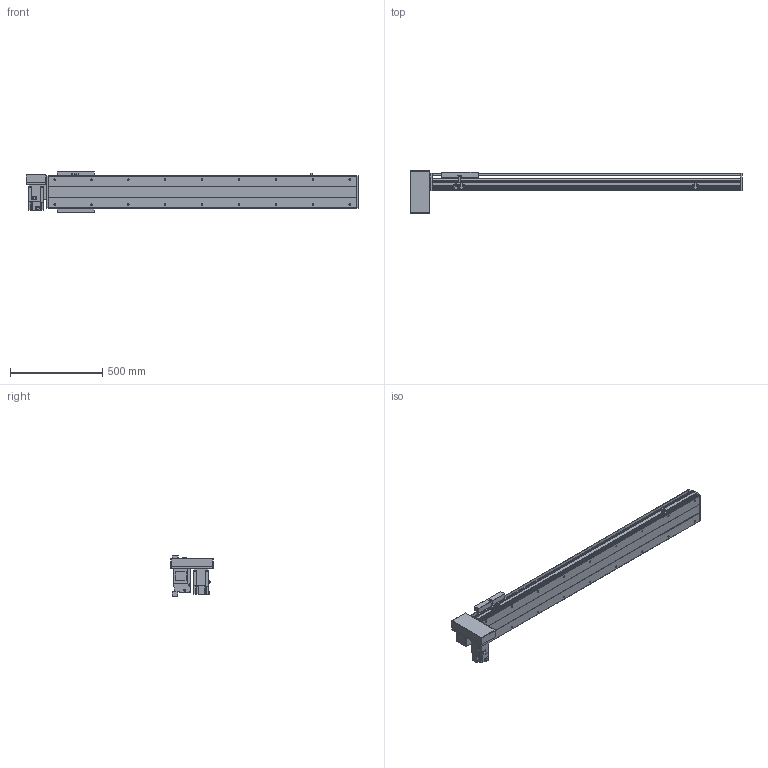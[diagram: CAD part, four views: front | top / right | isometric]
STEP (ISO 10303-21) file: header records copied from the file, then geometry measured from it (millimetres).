
FILE_DESCRIPTION(/* description */ ('STEP AP214'),/* implementation_level */ '2;1');
FILE_NAME(/* name */ 'PBS200-P40-S1300-RD-T75-C1-N(0)',/* time_stamp */ '2022-06-11T09:29:41+02:00',/* author */ ('License CC BY-ND 4.0'),/* organization */ ('CADENAS'),/* preprocessor_version */ 'ST-DEVELOPER v18.102',/* originating_system */ 'PARTsolutions',/* authorisation */ ' ');
FILE_SCHEMA (('AUTOMOTIVE_DESIGN {1 0 10303 214 3 1 1}'));
Length unit declared in the file: millimetre
Products named in the file (7): PBS200-P40-S1300-RD-T75-C1-N(0); PBS200_sensor; PBS200_plant; PBS200_sliser; T75-p1; PBS200T-RD_motors; PBS200-S1300()_body
Assembly tree (8 placements, depth 2):
  PBS200-P40-S1300-RD-T75-C1-N(0)
    PBS200_sensor  x3
    PBS200_plant
    PBS200_sliser
    T75-p1
    PBS200T-RD_motors
    PBS200-S1300()_body
Bounding box: 1800 x 230 x 221 mm (x, y, z)
Volume: 13110994.8 mm3; surface area: 2114686.4 mm2
Topology: 8 solids, 8 shells, 926 faces, 2384 edges, 1554 vertices
Faces by surface type: plane 576, cylinder 300, cone 50
Full cylindrical faces by diameter (mm): 2.459 x6, 3.242 x4, 4.5 x6, 4.917 x4, 5 x6, 6 x7, 6.6 x8, 6.647 x22, 8 x6, 10 x4, 12 x8, 38 x2, 40 x1, 70 x1
Entity records: 24701 total; most frequent: DIRECTION 4351, CARTESIAN_POINT 4210, ORIENTED_EDGE 3994, EDGE_CURVE 1997, AXIS2_PLACEMENT_3D 1519, VERTEX_POINT 1378, LINE 1313, VECTOR 1313
